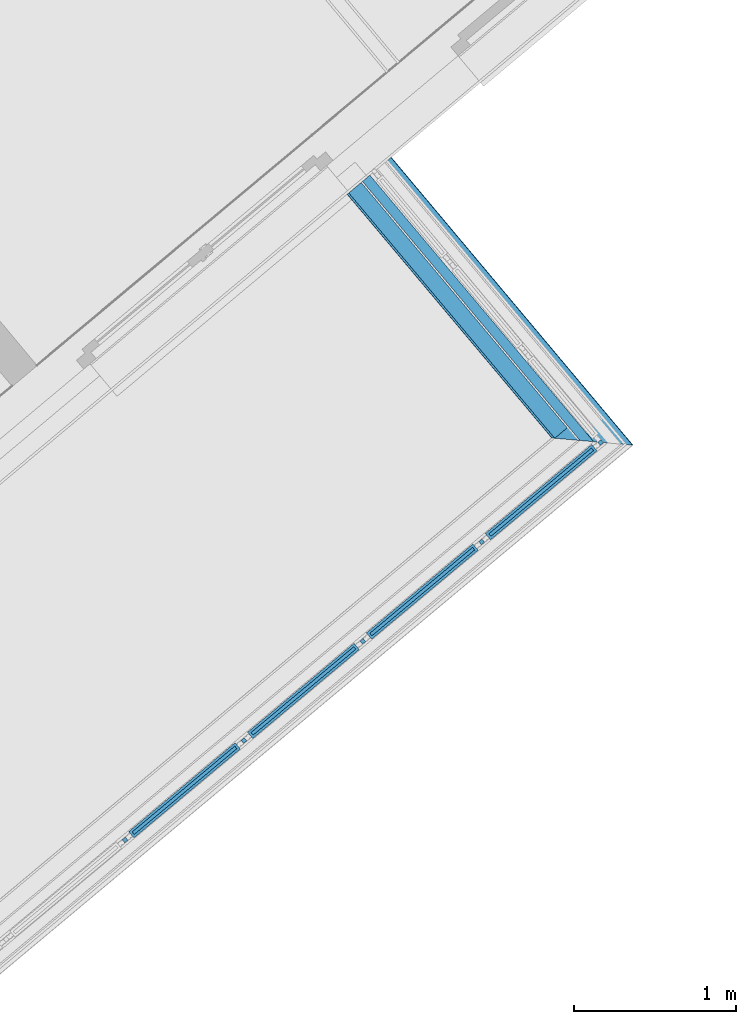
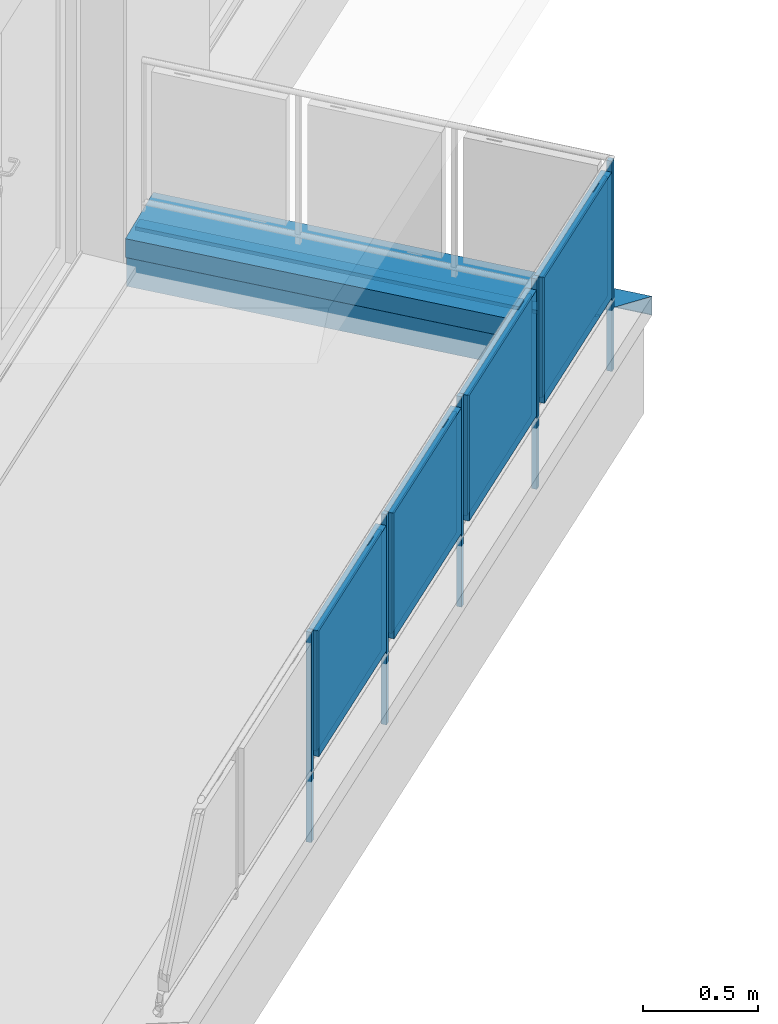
# One storey, part 19 of 50: 17 building element parts, 2 elements without a shape of their own.
"""IFC4 building model written with IfcOpenShell, lengths in metres."""

from ifc_helpers import new_model, entity, si_unit, converted_unit, derived_unit, direction, frame, origin_with_axes, place, context, subcontext, project, spatial, polygons, material, type_object, element, aggregate, save


model = new_model("IFC4")

# Units and contexts
model_context = context("Model", 3, precision=1e-05, world=origin_with_axes(), true_north=direction((0.0, 1.0)))
body_context = subcontext(model_context, "Body", "Model", "MODEL_VIEW")
ifc_project = project(units=[si_unit("LENGTHUNIT", "METRE"), si_unit("AREAUNIT", "SQUARE_METRE"), si_unit("VOLUMEUNIT", "CUBIC_METRE"), converted_unit("PLANEANGLEUNIT", "DEGREE", entity("IfcPlaneAngleMeasure", 0.0174532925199), si_unit("PLANEANGLEUNIT", "RADIAN"), dimensions=[0, 0, 0, 0, 0, 0, 0]), converted_unit("TIMEUNIT", "Year", entity("IfcTimeMeasure", 31556926.0), si_unit("TIMEUNIT", "SECOND"), dimensions=[0, 0, 1, 0, 0, 0, 0]), si_unit("MASSUNIT", "GRAM", prefix="KILO"), si_unit("THERMODYNAMICTEMPERATUREUNIT", "DEGREE_CELSIUS"), si_unit("LUMINOUSINTENSITYUNIT", "LUMEN"), si_unit("ENERGYUNIT", "JOULE", prefix="MEGA"), derived_unit("THERMALCONDUCTANCEUNIT", [(si_unit("POWERUNIT", "WATT"), 1), (si_unit("LENGTHUNIT", "METRE"), -1), (si_unit("THERMODYNAMICTEMPERATUREUNIT", "KELVIN"), -1)]), derived_unit("SPECIFICHEATCAPACITYUNIT", [(si_unit("ENERGYUNIT", "JOULE"), 1), (si_unit("MASSUNIT", "GRAM", prefix="KILO"), -1), (si_unit("THERMODYNAMICTEMPERATUREUNIT", "KELVIN"), -1)]), derived_unit("MASSDENSITYUNIT", [(si_unit("MASSUNIT", "GRAM", prefix="KILO"), 1), (si_unit("VOLUMEUNIT", "CUBIC_METRE"), -1)])], contexts=[model_context])

# Site, building, storey
site_placement = place(None, frame((-0.00153261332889, -0.00661245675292, 0.0), z_axis=(0.0, 0.0, 1.0), x_axis=(1.0, 0.0, 0.0)))
site = spatial("IfcSite", under=ifc_project, at=site_placement, Name="Site", CompositionType="ELEMENT")
building_placement = place(site_placement, origin_with_axes())
building = spatial("IfcBuilding", under=site, at=building_placement, Name="Building", CompositionType="ELEMENT")
storey_placement = place(building_placement, frame((0.0, 0.0, 2.74), z_axis=(0.0, 0.0, 1.0), x_axis=(1.0, 0.0, 0.0)))
storey = spatial("IfcBuildingStorey", under=building, at=storey_placement, Name="OG1", CompositionType="ELEMENT", Elevation=2.74)

# Wall, building element parts
wall_type = type_object("IfcWallType", Name="Bauteil - Attika Balkon 356 x 610", PredefinedType="NOTDEFINED")
wall_placement = place(storey_placement, frame((7.00366353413, 12.2268681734, -0.2), z_axis=(0.0, 0.0, 1.0), x_axis=(-0.643026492, 0.76584393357, 0.0)))
wall = element("IfcWall", 1, at=wall_placement, inside=storey, type_object=wall_type, Name="Wand-003", PredefinedType="NOTDEFINED")
ifc_material_1 = material(Name="Stahl")
building_element_part_1_placement = place(wall_placement, origin_with_axes())
building_element_part_1 = element("IfcBuildingElementPart", 2, at=building_element_part_1_placement, material=ifc_material_1, Name="Stahl", PredefinedType="NOTDEFINED", context=body_context, shape_type="Tessellation", body=[
    polygons([(0.113856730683, 0.113600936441, 0.497561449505), (0.112897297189, 0.112643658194, 0.496604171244), (0.113852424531, 0.11168637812, 0.497561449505), (2.07193710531, 0.113600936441, 0.497561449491), (2.07193710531, 0.112643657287, 0.496604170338), (2.07193710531, 0.103427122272, 0.505820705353), (0.105574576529, 0.103427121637, 0.505820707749), (0.11140838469, 0.109247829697, 0.499999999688), (0.1124955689, 0.110332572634, 0.498915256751), (0.1138493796, 0.110332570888, 0.498915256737), (0.113856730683, 0.113600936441, 0.498915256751), (0.113853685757, 0.112247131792, 0.498915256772), (0.113856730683, 0.113600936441, 0.499999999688), (0.113856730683, 0.113600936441, 0.506731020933), (0.113856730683, 0.113600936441, 0.509099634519), (0.113856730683, 0.113600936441, 0.511410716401), (0.113856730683, 0.113600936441, 0.519273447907), (0.113856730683, 0.113600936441, 0.560000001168), (0.113856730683, 0.113600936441, 0.575576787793), (0.113856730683, 0.113600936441, 0.57982217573), (0.113856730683, 0.113600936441, 0.581921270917), (0.113856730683, 0.113600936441, 0.584015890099), (0.113856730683, 0.113600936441, 0.586106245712), (0.113856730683, 0.113600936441, 0.595846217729), (0.113856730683, 0.113600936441, 0.597151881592), (2.07193710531, 0.113600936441, 0.597151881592), (2.07193710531, -0.242707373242, 0.610055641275), (2.07193710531, -0.242707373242, 0.510056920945), (2.07193710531, -0.241750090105, 0.509099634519), (2.07193710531, -0.232580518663, 0.518269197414), (2.07193710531, -0.233490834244, 0.519273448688), (2.07193710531, -0.241353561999, 0.511410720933), (2.07193710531, -0.24135992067, 0.60865214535), (2.07193710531, -0.23927649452, 0.608570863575), (2.07193710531, 0.112247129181, 0.595846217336), (2.07193710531, 0.112247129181, 0.498915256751), (2.07193710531, 0.104431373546, 0.506731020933), (0.104666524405, 0.104431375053, 0.506731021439), (0.111412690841, 0.111162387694, 0.499999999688), (0.112499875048, 0.112247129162, 0.498915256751), (0.113853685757, 0.112247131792, 0.499999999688), (0.113853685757, 0.112247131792, 0.506731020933), (0.113853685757, 0.112247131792, 0.509099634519), (0.113853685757, 0.112247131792, 0.511410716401), (0.113853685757, 0.112247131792, 0.519273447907), (0.113853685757, 0.112247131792, 0.560000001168), (0.113853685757, 0.112247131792, 0.575576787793), (0.113853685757, 0.112247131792, 0.57982217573), (0.113853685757, 0.112247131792, 0.581921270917), (0.113853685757, 0.112247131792, 0.584015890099), (0.113853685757, 0.112247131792, 0.586106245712), (0.113853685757, 0.112247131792, 0.595846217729), (0.113772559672, 0.076177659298, 0.597151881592), (-0.202162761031, -0.201708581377, 0.608570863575), (-0.204412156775, -0.203952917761, 0.608652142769), (-0.243253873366, -0.242707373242, 0.610055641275), (-0.204499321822, -0.24270737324, 0.608652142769), (-0.241906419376, -0.242707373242, 0.60865214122), (-0.241906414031, -0.242707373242, 0.608570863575), (-0.241905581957, -0.242707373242, 0.595846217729), (-0.241904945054, -0.242707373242, 0.586106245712), (-0.241904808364, -0.242707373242, 0.584015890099), (-0.241904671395, -0.242707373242, 0.581921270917), (-0.241904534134, -0.242707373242, 0.57982217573), (-0.241904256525, -0.242707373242, 0.575576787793), (-0.241903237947, -0.242707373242, 0.560000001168), (-0.241900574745, -0.242707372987, 0.519273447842), (-0.24190006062, -0.242707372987, 0.511410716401), (-0.239985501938, -0.242707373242, 0.511410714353), (-0.241339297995, -0.242707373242, 0.510056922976), (-0.242294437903, -0.241750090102, 0.509099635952), (-0.239978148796, -0.239439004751, 0.511410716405), (-0.233104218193, -0.232580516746, 0.518269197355), (-0.234016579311, -0.233490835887, 0.519273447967), (-0.233108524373, -0.234495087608, 0.518269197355), (-0.239982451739, -0.241353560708, 0.511410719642), (-0.241897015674, -0.241353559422, 0.511410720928), (-0.241897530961, -0.241354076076, 0.519273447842), (-0.241900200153, -0.241356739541, 0.560000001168), (-0.24190122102, -0.241357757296, 0.575576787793), (-0.241901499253, -0.241358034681, 0.57982217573), (-0.241901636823, -0.241358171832, 0.581921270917), (-0.241901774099, -0.24135830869, 0.584015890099), (-0.241901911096, -0.24135844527, 0.586106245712), (-0.241902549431, -0.24135908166, 0.595846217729), (-0.241903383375, -0.241359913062, 0.608570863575), (-0.241903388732, -0.241359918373, 0.608652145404), (-0.204496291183, -0.24135992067, 0.608652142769), (-0.202247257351, -0.23927649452, 0.608570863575)], [[[1, 2, 3]], [[1, 4, 5, 2]], [[5, 6, 7, 8, 9, 10, 3, 2]], [[11, 1, 3, 10, 12]], [[1, 11, 13, 14, 15, 16, 17, 18, 19, 20, 21, 22, 23, 24, 25, 26, 4]], [[5, 4, 26, 27, 28, 29, 30, 31, 32, 33, 34, 35, 36, 37, 6]], [[6, 37, 38, 7]], [[7, 38, 39, 8]], [[39, 40, 9, 8]], [[40, 12, 10, 9]], [[13, 11, 12, 41]], [[13, 41, 42, 14]], [[15, 14, 42, 43]], [[16, 15, 43, 44]], [[17, 16, 44, 45]], [[18, 17, 45, 46]], [[19, 18, 46, 47]], [[20, 19, 47, 48]], [[21, 20, 48, 49]], [[22, 21, 49, 50]], [[23, 22, 50, 51]], [[24, 23, 51, 52]], [[25, 24, 52, 53]], [[26, 25, 54, 55, 56, 27]], [[28, 27, 56, 57, 58, 59, 60, 61, 62, 63, 64, 65, 66, 67, 68, 69, 70]], [[29, 28, 70, 71]], [[30, 29, 71, 72, 73]], [[31, 30, 73, 74]], [[32, 31, 74, 75, 76]], [[33, 32, 76, 77, 78, 79, 80, 81, 82, 83, 84, 85, 86, 87, 88]], [[34, 33, 88, 89]], [[35, 34, 89, 53, 52]], [[36, 35, 52, 51, 50, 49, 48, 47, 46, 45, 44, 43, 42, 41, 12]], [[37, 36, 12, 40, 39, 38]], [[54, 25, 53, 89]], [[55, 54, 89, 88]], [[55, 88, 57, 56]], [[57, 88, 87, 58]], [[87, 86, 59, 58]], [[85, 60, 59, 86]], [[84, 61, 60, 85]], [[84, 83, 62, 61]], [[83, 82, 63, 62]], [[82, 81, 64, 63]], [[81, 80, 65, 64]], [[80, 79, 66, 65]], [[79, 78, 67, 66]], [[78, 77, 68, 67]], [[77, 76, 69, 68]], [[76, 72, 71, 70, 69]], [[76, 75, 73, 72]], [[74, 73, 75]]], closed=True),
])
ifc_material_2 = material(Name="Holzwerkstoff")
building_element_part_2_placement = place(wall_placement, origin_with_axes())
building_element_part_2 = element("IfcBuildingElementPart", 3, at=building_element_part_2_placement, material=ifc_material_2, Name="Holzwerkstoff", PredefinedType="NOTDEFINED", context=body_context, shape_type="Tessellation", body=[
    polygons([(2.07193710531, 0.112247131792, 0.5958462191), (2.07193710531, 0.111539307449, 0.575576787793), (0.111790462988, 0.111539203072, 0.575576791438), (0.111939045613, 0.111687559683, 0.579822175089), (0.112012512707, 0.111760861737, 0.581921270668), (0.112085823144, 0.11183400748, 0.584015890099), (0.112158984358, 0.111907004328, 0.586106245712), (0.112499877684, 0.112247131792, 0.5958462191), (2.07193710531, -0.0100326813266, 0.579822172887), (2.07193710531, -0.23927649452, 0.608570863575), (2.07193710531, -0.23999998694, 0.587852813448), (2.07193710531, -0.189984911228, 0.586106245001), (2.07193710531, -0.13012497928, 0.584015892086), (2.07193710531, -0.0701429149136, 0.581921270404), (0.111665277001, -0.0100326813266, 0.579822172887), (0.111603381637, -0.0701429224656, 0.581921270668), (0.111541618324, -0.130124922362, 0.584015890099), (0.111479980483, -0.189984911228, 0.586106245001), (0.111428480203, -0.23999998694, 0.587852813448), (0.11170824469, -0.239720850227, 0.5958462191), (-0.239815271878, -0.239276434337, 0.608570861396)], [[[1, 2, 3, 4, 5, 6, 7, 8]], [[9, 2, 1, 10, 11, 12, 13, 14]], [[2, 9, 15, 3]], [[4, 3, 15]], [[5, 4, 15, 16]], [[6, 5, 16, 17]], [[7, 6, 17, 18]], [[8, 7, 18, 19, 20]], [[1, 8, 21, 10]], [[11, 10, 21, 20, 19]], [[12, 11, 19, 18]], [[13, 12, 18, 17]], [[14, 13, 17, 16]], [[9, 14, 16, 15]], [[21, 8, 20]]], closed=True),
])
ifc_material_3 = material(Name="EPS 1")
building_element_part_3_placement = place(wall_placement, origin_with_axes())
building_element_part_3 = element("IfcBuildingElementPart", 4, at=building_element_part_3_placement, material=ifc_material_3, Name="EPS 1", PredefinedType="NOTDEFINED", context=body_context, shape_type="Tessellation", body=[
    polygons([(0.100225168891, 0.0999999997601, 0.560000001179), (0.100000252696, -2.39907649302e-10, 0.560000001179), (2.07193710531, -2.39907649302e-10, 0.560000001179), (2.07193710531, 0.0999999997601, 0.560000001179), (0.100000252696, -2.39905872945e-10, 0.519273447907), (0.100225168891, 0.0999999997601, 0.519273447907), (0.100000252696, -2.39905872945e-10, 0.511410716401), (0.100000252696, -2.39905872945e-10, 0.509099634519), (0.100000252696, -2.39905872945e-10, 0.506731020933), (0.100000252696, -2.39905872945e-10, 0.499999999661), (0.100000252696, -2.39905872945e-10, 0.498915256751), (0.100000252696, -2.39905872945e-10, 0.496604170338), (0.100000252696, -2.39907649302e-10, 0.334999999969), (2.07193710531, -2.39907649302e-10, 0.334999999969), (2.07193710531, 0.0999999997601, 0.334999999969), (0.100225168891, 0.0999999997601, 0.334999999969), (0.100225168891, 0.0999999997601, 0.496604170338), (0.100225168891, 0.0999999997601, 0.498915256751), (0.100225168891, 0.0999999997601, 0.499999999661), (0.100225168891, 0.0999999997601, 0.506731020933), (0.100225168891, 0.0999999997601, 0.509099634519), (0.100225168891, 0.0999999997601, 0.511410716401)], [[[1, 2, 3, 4]], [[5, 2, 1, 6]], [[2, 5, 7, 8, 9, 10, 11, 12, 13, 14, 3]], [[14, 15, 4, 3]], [[6, 1, 4, 15, 16, 17, 18, 19, 20, 21, 22]], [[5, 6, 22, 7]], [[7, 22, 21, 8]], [[8, 21, 20, 9]], [[9, 20, 19, 10]], [[10, 19, 18, 11]], [[11, 18, 17, 12]], [[12, 17, 16, 13]], [[13, 16, 15, 14]]], closed=True),
])
ifc_material_4 = material(Name="Vollholz")
building_element_part_4_placement = place(wall_placement, origin_with_axes())
building_element_part_4 = element("IfcBuildingElementPart", 5, at=building_element_part_4_placement, material=ifc_material_4, Name="Vollholz", PredefinedType="NOTDEFINED", context=body_context, shape_type="Tessellation", body=[
    polygons([(-0.0100552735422, -0.0100326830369, 0.579822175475), (-0.0703008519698, -0.0701429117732, 0.581921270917), (2.07193710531, -0.0701429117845, 0.581921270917), (2.07193710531, -0.0100326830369, 0.579822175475), (-0.0101904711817, -0.0701429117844, 0.579822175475), (-0.0102140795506, -0.0701429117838, 0.575576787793), (-0.0103007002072, -0.0701429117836, 0.560000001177), (2.07193710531, -0.0701429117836, 0.560000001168), (2.07193710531, -0.0101429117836, 0.560000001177), (-0.0100789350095, -0.0100562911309, 0.575576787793), (-0.01016575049, -0.0101429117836, 0.560000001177)], [[[1, 2, 3, 4]], [[5, 2, 1]], [[2, 5, 6, 7, 8, 3]], [[9, 4, 3, 8]], [[10, 1, 4, 9, 11]], [[5, 1, 10, 6]], [[6, 10, 11, 7]], [[7, 11, 9, 8]]], closed=True),
])
aggregate(wall, [building_element_part_1, building_element_part_2, building_element_part_3, building_element_part_4])

# Railing, building element parts
railing_type = type_object("IfcRailingType", Name="Geländerart", PredefinedType="NOTDEFINED")
railing_placement = place(storey_placement, frame((-0.869246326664, 8.34153645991, 0.38), z_axis=(0.0, 0.0, 1.0), x_axis=(1.0, 0.0, 0.0)))
railing = element("IfcRailing", 6, at=railing_placement, inside=storey, type_object=railing_type, Name="Geländer - 001", PredefinedType="NOTDEFINED")
ifc_material_5 = material(Name="Aluminium")
building_element_part_5_placement = place(railing_placement, origin_with_axes())
building_element_part_5 = element("IfcBuildingElementPart", 7, at=building_element_part_5_placement, material=ifc_material_5, Name="Aluminium", PredefinedType="NOTDEFINED", context=body_context, shape_type="Tessellation", body=[
    polygons([(8.03183579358, 3.86996727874, -0.3), (8.01580323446, 3.88914948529, -0.3), (8.01580323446, 3.88914948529, 0.82), (8.03183579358, 3.86996727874, 0.82), (8.01265358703, 3.85393471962, -0.3), (7.99662102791, 3.87311692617, -0.3), (7.99662102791, 3.87311692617, 0.82), (8.01265358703, 3.85393471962, 0.82)], [[[1, 2, 3, 4]], [[1, 5, 6, 2]], [[2, 6, 7, 3]], [[4, 3, 7, 8]], [[5, 1, 4, 8]], [[6, 5, 8, 7]]], closed=True),
])
building_element_part_6_placement = place(railing_placement, origin_with_axes())
building_element_part_6 = element("IfcBuildingElementPart", 8, at=building_element_part_6_placement, material=ifc_material_5, Name="Aluminium", PredefinedType="NOTDEFINED", context=body_context, shape_type="Tessellation", body=[
    polygons([(5.10487304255, 1.42360099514, -0.3), (5.08884048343, 1.44278320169, -0.3), (5.08884048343, 1.44278320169, 0.82), (5.10487304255, 1.42360099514, 0.82), (5.085690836, 1.40756843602, -0.3), (5.06965827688, 1.42675064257, -0.3), (5.06965827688, 1.42675064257, 0.82), (5.085690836, 1.40756843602, 0.82)], [[[1, 2, 3, 4]], [[1, 5, 6, 2]], [[2, 6, 7, 3]], [[4, 3, 7, 8]], [[5, 1, 4, 8]], [[6, 5, 8, 7]]], closed=True),
])
ifc_material_6 = material(Name="Profilit")
building_element_part_7_placement = place(railing_placement, origin_with_axes())
building_element_part_7 = element("IfcBuildingElementPart", 9, at=building_element_part_7_placement, material=ifc_material_6, Name="Profilit", PredefinedType="NOTDEFINED", context=body_context, shape_type="Tessellation", body=[
    polygons([(5.7627195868, 2.00275561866, 0.135), (5.1307263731, 1.47453335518, 0.135), (5.1307263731, 1.47453335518, 0.775), (5.7627195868, 2.00275561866, 0.775), (5.14355242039, 1.45918758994, 0.135), (5.7755456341, 1.98740985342, 0.135), (5.14355242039, 1.45918758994, 0.775), (5.7755456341, 1.98740985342, 0.775)], [[[1, 2, 3, 4]], [[5, 2, 1, 6]], [[7, 3, 2, 5]], [[4, 3, 7, 8]], [[1, 4, 8, 6]], [[7, 5, 6, 8]]], closed=True),
])
building_element_part_8_placement = place(railing_placement, origin_with_axes())
building_element_part_8 = element("IfcBuildingElementPart", 10, at=building_element_part_8_placement, material=ifc_material_5, Name="Aluminium", PredefinedType="NOTDEFINED", context=body_context, shape_type="Tessellation", body=[
    polygons([(5.2007556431, 1.52328939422, 0.12), (5.25446582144, 1.56818055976, 0.12), (5.25446582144, 1.56818055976, 0.095), (5.2007556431, 1.52328939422, 0.095), (5.20396215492, 1.51945295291, 0.12), (5.25767233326, 1.56434411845, 0.12), (5.25767233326, 1.56434411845, 0.095), (5.20396215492, 1.51945295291, 0.095)], [[[1, 2, 3, 4]], [[5, 6, 2, 1]], [[2, 6, 7, 3]], [[4, 3, 7, 8]], [[1, 4, 8, 5]], [[8, 7, 6, 5]]], closed=True),
    polygons([(5.70230985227, 1.94249025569, 0.79), (5.64859967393, 1.89759909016, 0.79), (5.64859967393, 1.89759909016, 0.795), (5.70230985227, 1.94249025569, 0.795), (5.70551636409, 1.93865381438, 0.79), (5.65180618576, 1.89376264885, 0.79), (5.65180618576, 1.89376264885, 0.795), (5.70551636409, 1.93865381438, 0.795)], [[[1, 2, 3, 4]], [[5, 6, 2, 1]], [[2, 6, 7, 3]], [[4, 3, 7, 8]], [[1, 4, 8, 5]], [[8, 7, 6, 5]]], closed=True),
    polygons([(5.14166263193, 1.43805873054, 0.12), (5.1095975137, 1.47642314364, 0.12), (5.76460937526, 2.02388447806, 0.12), (5.7966744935, 1.98552006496, 0.12), (5.15700839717, 1.45088477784, 0.14), (5.1473888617, 1.46239410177, 0.14), (5.14355242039, 1.45918758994, 0.135), (5.1307263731, 1.47453335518, 0.135), (5.13456281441, 1.47773986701, 0.14), (5.12494327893, 1.48924919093, 0.14), (5.74926361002, 2.01105843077, 0.14), (5.74926361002, 2.01105843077, 0.77), (5.12494327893, 1.48924919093, 0.77), (5.12494327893, 1.48924919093, 0.14), (5.1095975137, 1.47642314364, 0.12), (5.1095975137, 1.47642314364, 0.79), (5.76460937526, 2.02388447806, 0.79), (5.7966744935, 1.98552006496, 0.79), (5.14166263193, 1.43805873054, 0.79), (5.14166263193, 1.43805873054, 0.12), (5.15700839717, 1.45088477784, 0.14), (5.15700839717, 1.45088477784, 0.77), (5.78132872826, 1.97269401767, 0.77), (5.78132872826, 1.97269401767, 0.14), (5.77170919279, 1.9842033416, 0.14), (5.77170919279, 1.9842033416, 0.77), (5.1473888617, 1.46239410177, 0.77), (5.1473888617, 1.46239410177, 0.14), (5.14355242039, 1.45918758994, 0.135), (5.14355242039, 1.45918758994, 0.775), (5.7755456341, 1.98740985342, 0.775), (5.7755456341, 1.98740985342, 0.135), (5.7627195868, 2.00275561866, 0.135), (5.7627195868, 2.00275561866, 0.775), (5.1307263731, 1.47453335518, 0.775), (5.1307263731, 1.47453335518, 0.135), (5.13456281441, 1.47773986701, 0.14), (5.13456281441, 1.47773986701, 0.77), (5.75888314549, 1.99954910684, 0.77), (5.75888314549, 1.99954910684, 0.14)], [[[1, 2, 3, 4]], [[1, 5, 6, 7, 8, 9, 10, 2]], [[2, 10, 11, 12, 13, 14, 15, 16, 17, 3]], [[4, 3, 17, 18]], [[5, 1, 4, 18, 19, 20, 21, 22, 23, 24]], [[6, 5, 24, 25]], [[7, 6, 25, 26, 27, 28, 29, 30, 31, 32]], [[8, 7, 32, 33]], [[9, 8, 33, 34, 35, 36, 37, 38, 39, 40]], [[10, 9, 40, 11]], [[11, 40, 39, 12]], [[12, 39, 38, 13]], [[13, 38, 37, 14]], [[20, 15, 14, 37, 36, 29, 28, 21]], [[19, 16, 15, 20]], [[18, 17, 16, 19]], [[27, 22, 21, 28]], [[26, 23, 22, 27]], [[25, 24, 23, 26]], [[35, 30, 29, 36]], [[34, 31, 30, 35]], [[33, 32, 31, 34]]], closed=True),
])
building_element_part_9_placement = place(railing_placement, origin_with_axes())
building_element_part_9 = element("IfcBuildingElementPart", 11, at=building_element_part_9_placement, material=ifc_material_5, Name="Aluminium", PredefinedType="NOTDEFINED", context=body_context, shape_type="Tessellation", body=[
    polygons([(5.83661373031, 2.03519256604, -0.3), (5.82058117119, 2.05437477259, -0.3), (5.82058117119, 2.05437477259, 0.82), (5.83661373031, 2.03519256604, 0.82), (5.81743152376, 2.01916000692, -0.3), (5.80139896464, 2.03834221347, -0.3), (5.80139896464, 2.03834221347, 0.82), (5.81743152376, 2.01916000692, 0.82)], [[[1, 2, 3, 4]], [[1, 5, 6, 2]], [[2, 6, 7, 3]], [[4, 3, 7, 8]], [[5, 1, 4, 8]], [[6, 5, 8, 7]]], closed=True),
])
building_element_part_10_placement = place(railing_placement, origin_with_axes())
building_element_part_10 = element("IfcBuildingElementPart", 12, at=building_element_part_10_placement, material=ifc_material_6, Name="Profilit", PredefinedType="NOTDEFINED", context=body_context, shape_type="Tessellation", body=[
    polygons([(6.49446027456, 2.61434718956, 0.135), (5.86246706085, 2.08612492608, 0.135), (5.86246706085, 2.08612492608, 0.775), (6.49446027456, 2.61434718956, 0.775), (5.87529310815, 2.07077916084, 0.135), (6.50728632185, 2.59900142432, 0.135), (5.87529310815, 2.07077916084, 0.775), (6.50728632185, 2.59900142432, 0.775)], [[[1, 2, 3, 4]], [[5, 2, 1, 6]], [[7, 3, 2, 5]], [[4, 3, 7, 8]], [[1, 4, 8, 6]], [[7, 5, 6, 8]]], closed=True),
])
building_element_part_11_placement = place(railing_placement, origin_with_axes())
building_element_part_11 = element("IfcBuildingElementPart", 13, at=building_element_part_11_placement, material=ifc_material_5, Name="Aluminium", PredefinedType="NOTDEFINED", context=body_context, shape_type="Tessellation", body=[
    polygons([(5.93249633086, 2.13488096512, 0.12), (5.98620650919, 2.17977213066, 0.12), (5.98620650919, 2.17977213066, 0.095), (5.93249633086, 2.13488096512, 0.095), (5.93570284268, 2.13104452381, 0.12), (5.98941302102, 2.17593568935, 0.12), (5.98941302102, 2.17593568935, 0.095), (5.93570284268, 2.13104452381, 0.095)], [[[1, 2, 3, 4]], [[5, 6, 2, 1]], [[2, 6, 7, 3]], [[4, 3, 7, 8]], [[1, 4, 8, 5]], [[8, 7, 6, 5]]], closed=True),
    polygons([(6.43405054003, 2.55408182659, 0.79), (6.38034036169, 2.50919066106, 0.79), (6.38034036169, 2.50919066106, 0.795), (6.43405054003, 2.55408182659, 0.795), (6.43725705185, 2.55024538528, 0.79), (6.38354687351, 2.50535421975, 0.79), (6.38354687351, 2.50535421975, 0.795), (6.43725705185, 2.55024538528, 0.795)], [[[1, 2, 3, 4]], [[5, 6, 2, 1]], [[2, 6, 7, 3]], [[4, 3, 7, 8]], [[1, 4, 8, 5]], [[8, 7, 6, 5]]], closed=True),
    polygons([(5.87340331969, 2.04965030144, 0.12), (5.84133820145, 2.08801471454, 0.12), (6.49635006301, 2.63547604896, 0.12), (6.52841518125, 2.59711163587, 0.12), (5.88874908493, 2.06247634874, 0.14), (5.87912954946, 2.07398567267, 0.14), (5.87529310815, 2.07077916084, 0.135), (5.86246706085, 2.08612492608, 0.135), (5.86630350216, 2.08933143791, 0.14), (5.85668396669, 2.10084076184, 0.14), (6.48100429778, 2.62265000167, 0.14), (6.48100429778, 2.62265000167, 0.77), (5.85668396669, 2.10084076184, 0.77), (5.85668396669, 2.10084076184, 0.14), (5.84133820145, 2.08801471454, 0.12), (5.84133820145, 2.08801471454, 0.79), (6.49635006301, 2.63547604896, 0.79), (6.52841518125, 2.59711163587, 0.79), (5.87340331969, 2.04965030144, 0.79), (5.87340331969, 2.04965030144, 0.12), (5.88874908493, 2.06247634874, 0.14), (5.88874908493, 2.06247634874, 0.77), (6.51306941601, 2.58428558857, 0.77), (6.51306941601, 2.58428558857, 0.14), (6.50344988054, 2.5957949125, 0.14), (6.50344988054, 2.5957949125, 0.77), (5.87912954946, 2.07398567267, 0.77), (5.87912954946, 2.07398567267, 0.14), (5.87529310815, 2.07077916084, 0.135), (5.87529310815, 2.07077916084, 0.775), (6.50728632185, 2.59900142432, 0.775), (6.50728632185, 2.59900142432, 0.135), (6.49446027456, 2.61434718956, 0.135), (6.49446027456, 2.61434718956, 0.775), (5.86246706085, 2.08612492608, 0.775), (5.86246706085, 2.08612492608, 0.135), (5.86630350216, 2.08933143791, 0.14), (5.86630350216, 2.08933143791, 0.77), (6.49062383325, 2.61114067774, 0.77), (6.49062383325, 2.61114067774, 0.14)], [[[1, 2, 3, 4]], [[1, 5, 6, 7, 8, 9, 10, 2]], [[2, 10, 11, 12, 13, 14, 15, 16, 17, 3]], [[4, 3, 17, 18]], [[5, 1, 4, 18, 19, 20, 21, 22, 23, 24]], [[6, 5, 24, 25]], [[7, 6, 25, 26, 27, 28, 29, 30, 31, 32]], [[8, 7, 32, 33]], [[9, 8, 33, 34, 35, 36, 37, 38, 39, 40]], [[10, 9, 40, 11]], [[11, 40, 39, 12]], [[12, 39, 38, 13]], [[13, 38, 37, 14]], [[20, 15, 14, 37, 36, 29, 28, 21]], [[19, 16, 15, 20]], [[18, 17, 16, 19]], [[27, 22, 21, 28]], [[26, 23, 22, 27]], [[25, 24, 23, 26]], [[35, 30, 29, 36]], [[34, 31, 30, 35]], [[33, 32, 31, 34]]], closed=True),
])
building_element_part_12_placement = place(railing_placement, origin_with_axes())
building_element_part_12 = element("IfcBuildingElementPart", 14, at=building_element_part_12_placement, material=ifc_material_5, Name="Aluminium", PredefinedType="NOTDEFINED", context=body_context, shape_type="Tessellation", body=[
    polygons([(6.56835441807, 2.64678413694, -0.3), (6.55232185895, 2.66596634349, -0.3), (6.55232185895, 2.66596634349, 0.82), (6.56835441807, 2.64678413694, 0.82), (6.54917221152, 2.63075157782, -0.3), (6.5331396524, 2.64993378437, -0.3), (6.5331396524, 2.64993378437, 0.82), (6.54917221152, 2.63075157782, 0.82)], [[[1, 2, 3, 4]], [[1, 5, 6, 2]], [[2, 6, 7, 3]], [[4, 3, 7, 8]], [[5, 1, 4, 8]], [[6, 5, 8, 7]]], closed=True),
])
building_element_part_13_placement = place(railing_placement, origin_with_axes())
building_element_part_13 = element("IfcBuildingElementPart", 15, at=building_element_part_13_placement, material=ifc_material_6, Name="Profilit", PredefinedType="NOTDEFINED", context=body_context, shape_type="Tessellation", body=[
    polygons([(7.22620096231, 3.22593876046, 0.135), (6.59420774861, 2.69771649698, 0.135), (6.59420774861, 2.69771649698, 0.775), (7.22620096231, 3.22593876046, 0.775), (6.60703379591, 2.68237073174, 0.135), (7.23902700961, 3.21059299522, 0.135), (6.60703379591, 2.68237073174, 0.775), (7.23902700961, 3.21059299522, 0.775)], [[[1, 2, 3, 4]], [[5, 2, 1, 6]], [[7, 3, 2, 5]], [[4, 3, 7, 8]], [[1, 4, 8, 6]], [[7, 5, 6, 8]]], closed=True),
])
building_element_part_14_placement = place(railing_placement, origin_with_axes())
building_element_part_14 = element("IfcBuildingElementPart", 16, at=building_element_part_14_placement, material=ifc_material_5, Name="Aluminium", PredefinedType="NOTDEFINED", context=body_context, shape_type="Tessellation", body=[
    polygons([(6.66423701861, 2.74647253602, 0.12), (6.71794719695, 2.79136370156, 0.12), (6.71794719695, 2.79136370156, 0.095), (6.66423701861, 2.74647253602, 0.095), (6.66744353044, 2.74263609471, 0.12), (6.72115370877, 2.78752726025, 0.12), (6.72115370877, 2.78752726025, 0.095), (6.66744353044, 2.74263609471, 0.095)], [[[1, 2, 3, 4]], [[5, 6, 2, 1]], [[2, 6, 7, 3]], [[4, 3, 7, 8]], [[1, 4, 8, 5]], [[8, 7, 6, 5]]], closed=True),
    polygons([(7.16579122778, 3.16567339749, 0.79), (7.11208104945, 3.12078223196, 0.79), (7.11208104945, 3.12078223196, 0.795), (7.16579122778, 3.16567339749, 0.795), (7.16899773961, 3.16183695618, 0.79), (7.11528756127, 3.11694579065, 0.79), (7.11528756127, 3.11694579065, 0.795), (7.16899773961, 3.16183695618, 0.795)], [[[1, 2, 3, 4]], [[5, 6, 2, 1]], [[2, 6, 7, 3]], [[4, 3, 7, 8]], [[1, 4, 8, 5]], [[8, 7, 6, 5]]], closed=True),
    polygons([(6.60514400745, 2.66124187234, 0.12), (6.57307888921, 2.69960628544, 0.12), (7.22809075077, 3.24706761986, 0.12), (7.26015586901, 3.20870320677, 0.12), (6.62048977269, 2.67406791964, 0.14), (6.61087023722, 2.68557724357, 0.14), (6.60703379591, 2.68237073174, 0.135), (6.59420774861, 2.69771649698, 0.135), (6.59804418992, 2.70092300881, 0.14), (6.58842465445, 2.71243233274, 0.14), (7.21274498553, 3.23424157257, 0.14), (7.21274498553, 3.23424157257, 0.77), (6.58842465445, 2.71243233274, 0.77), (6.58842465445, 2.71243233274, 0.14), (6.57307888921, 2.69960628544, 0.12), (6.57307888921, 2.69960628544, 0.79), (7.22809075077, 3.24706761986, 0.79), (7.26015586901, 3.20870320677, 0.79), (6.60514400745, 2.66124187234, 0.79), (6.60514400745, 2.66124187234, 0.12), (6.62048977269, 2.67406791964, 0.14), (6.62048977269, 2.67406791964, 0.77), (7.24481010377, 3.19587715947, 0.77), (7.24481010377, 3.19587715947, 0.14), (7.2351905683, 3.2073864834, 0.14), (7.2351905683, 3.2073864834, 0.77), (6.61087023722, 2.68557724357, 0.77), (6.61087023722, 2.68557724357, 0.14), (6.60703379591, 2.68237073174, 0.135), (6.60703379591, 2.68237073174, 0.775), (7.23902700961, 3.21059299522, 0.775), (7.23902700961, 3.21059299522, 0.135), (7.22620096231, 3.22593876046, 0.135), (7.22620096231, 3.22593876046, 0.775), (6.59420774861, 2.69771649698, 0.775), (6.59420774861, 2.69771649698, 0.135), (6.59804418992, 2.70092300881, 0.14), (6.59804418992, 2.70092300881, 0.77), (7.222364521, 3.22273224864, 0.77), (7.222364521, 3.22273224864, 0.14)], [[[1, 2, 3, 4]], [[1, 5, 6, 7, 8, 9, 10, 2]], [[2, 10, 11, 12, 13, 14, 15, 16, 17, 3]], [[4, 3, 17, 18]], [[5, 1, 4, 18, 19, 20, 21, 22, 23, 24]], [[6, 5, 24, 25]], [[7, 6, 25, 26, 27, 28, 29, 30, 31, 32]], [[8, 7, 32, 33]], [[9, 8, 33, 34, 35, 36, 37, 38, 39, 40]], [[10, 9, 40, 11]], [[11, 40, 39, 12]], [[12, 39, 38, 13]], [[13, 38, 37, 14]], [[20, 15, 14, 37, 36, 29, 28, 21]], [[19, 16, 15, 20]], [[18, 17, 16, 19]], [[27, 22, 21, 28]], [[26, 23, 22, 27]], [[25, 24, 23, 26]], [[35, 30, 29, 36]], [[34, 31, 30, 35]], [[33, 32, 31, 34]]], closed=True),
])
building_element_part_15_placement = place(railing_placement, origin_with_axes())
building_element_part_15 = element("IfcBuildingElementPart", 17, at=building_element_part_15_placement, material=ifc_material_5, Name="Aluminium", PredefinedType="NOTDEFINED", context=body_context, shape_type="Tessellation", body=[
    polygons([(7.30009510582, 3.25837570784, -0.3), (7.2840625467, 3.27755791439, -0.3), (7.2840625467, 3.27755791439, 0.82), (7.30009510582, 3.25837570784, 0.82), (7.28091289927, 3.24234314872, -0.3), (7.26488034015, 3.26152535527, -0.3), (7.26488034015, 3.26152535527, 0.82), (7.28091289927, 3.24234314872, 0.82)], [[[1, 2, 3, 4]], [[1, 5, 6, 2]], [[2, 6, 7, 3]], [[4, 3, 7, 8]], [[5, 1, 4, 8]], [[6, 5, 8, 7]]], closed=True),
])
building_element_part_16_placement = place(railing_placement, origin_with_axes())
building_element_part_16 = element("IfcBuildingElementPart", 18, at=building_element_part_16_placement, material=ifc_material_6, Name="Profilit", PredefinedType="NOTDEFINED", context=body_context, shape_type="Tessellation", body=[
    polygons([(7.95794165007, 3.83753033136, 0.135), (7.32594843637, 3.30930806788, 0.135), (7.32594843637, 3.30930806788, 0.775), (7.95794165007, 3.83753033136, 0.775), (7.33877448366, 3.29396230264, 0.135), (7.97076769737, 3.82218456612, 0.135), (7.33877448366, 3.29396230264, 0.775), (7.97076769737, 3.82218456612, 0.775)], [[[1, 2, 3, 4]], [[5, 2, 1, 6]], [[7, 3, 2, 5]], [[4, 3, 7, 8]], [[1, 4, 8, 6]], [[7, 5, 6, 8]]], closed=True),
])
building_element_part_17_placement = place(railing_placement, origin_with_axes())
building_element_part_17 = element("IfcBuildingElementPart", 19, at=building_element_part_17_placement, material=ifc_material_5, Name="Aluminium", PredefinedType="NOTDEFINED", context=body_context, shape_type="Tessellation", body=[
    polygons([(7.39597770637, 3.35806410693, 0.12), (7.44968788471, 3.40295527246, 0.12), (7.44968788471, 3.40295527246, 0.095), (7.39597770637, 3.35806410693, 0.095), (7.39918421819, 3.35422766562, 0.12), (7.45289439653, 3.39911883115, 0.12), (7.45289439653, 3.39911883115, 0.095), (7.39918421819, 3.35422766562, 0.095)], [[[1, 2, 3, 4]], [[5, 6, 2, 1]], [[2, 6, 7, 3]], [[4, 3, 7, 8]], [[1, 4, 8, 5]], [[8, 7, 6, 5]]], closed=True),
    polygons([(7.89753191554, 3.77726496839, 0.79), (7.8438217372, 3.73237380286, 0.79), (7.8438217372, 3.73237380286, 0.795), (7.89753191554, 3.77726496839, 0.795), (7.90073842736, 3.77342852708, 0.79), (7.84702824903, 3.72853736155, 0.79), (7.84702824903, 3.72853736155, 0.795), (7.90073842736, 3.77342852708, 0.795)], [[[1, 2, 3, 4]], [[5, 6, 2, 1]], [[2, 6, 7, 3]], [[4, 3, 7, 8]], [[1, 4, 8, 5]], [[8, 7, 6, 5]]], closed=True),
    polygons([(7.33688469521, 3.27283344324, 0.12), (7.30481957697, 3.31119785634, 0.12), (7.95983143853, 3.85865919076, 0.12), (7.99189655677, 3.82029477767, 0.12), (7.35223046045, 3.28565949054, 0.14), (7.34261092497, 3.29716881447, 0.14), (7.33877448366, 3.29396230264, 0.135), (7.32594843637, 3.30930806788, 0.135), (7.32978487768, 3.31251457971, 0.14), (7.32016534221, 3.32402390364, 0.14), (7.94448567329, 3.84583314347, 0.14), (7.94448567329, 3.84583314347, 0.77), (7.32016534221, 3.32402390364, 0.77), (7.32016534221, 3.32402390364, 0.14), (7.30481957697, 3.31119785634, 0.12), (7.30481957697, 3.31119785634, 0.79), (7.95983143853, 3.85865919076, 0.79), (7.99189655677, 3.82029477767, 0.79), (7.33688469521, 3.27283344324, 0.79), (7.33688469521, 3.27283344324, 0.12), (7.35223046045, 3.28565949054, 0.14), (7.35223046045, 3.28565949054, 0.77), (7.97655079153, 3.80746873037, 0.77), (7.97655079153, 3.80746873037, 0.14), (7.96693125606, 3.8189780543, 0.14), (7.96693125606, 3.8189780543, 0.77), (7.34261092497, 3.29716881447, 0.77), (7.34261092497, 3.29716881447, 0.14), (7.33877448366, 3.29396230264, 0.135), (7.33877448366, 3.29396230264, 0.775), (7.97076769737, 3.82218456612, 0.775), (7.97076769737, 3.82218456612, 0.135), (7.95794165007, 3.83753033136, 0.135), (7.95794165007, 3.83753033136, 0.775), (7.32594843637, 3.30930806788, 0.775), (7.32594843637, 3.30930806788, 0.135), (7.32978487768, 3.31251457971, 0.14), (7.32978487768, 3.31251457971, 0.77), (7.95410520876, 3.83432381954, 0.77), (7.95410520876, 3.83432381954, 0.14)], [[[1, 2, 3, 4]], [[1, 5, 6, 7, 8, 9, 10, 2]], [[2, 10, 11, 12, 13, 14, 15, 16, 17, 3]], [[4, 3, 17, 18]], [[5, 1, 4, 18, 19, 20, 21, 22, 23, 24]], [[6, 5, 24, 25]], [[7, 6, 25, 26, 27, 28, 29, 30, 31, 32]], [[8, 7, 32, 33]], [[9, 8, 33, 34, 35, 36, 37, 38, 39, 40]], [[10, 9, 40, 11]], [[11, 40, 39, 12]], [[12, 39, 38, 13]], [[13, 38, 37, 14]], [[20, 15, 14, 37, 36, 29, 28, 21]], [[19, 16, 15, 20]], [[18, 17, 16, 19]], [[27, 22, 21, 28]], [[26, 23, 22, 27]], [[25, 24, 23, 26]], [[35, 30, 29, 36]], [[34, 31, 30, 35]], [[33, 32, 31, 34]]], closed=True),
])
aggregate(railing, [building_element_part_5, building_element_part_6, building_element_part_7, building_element_part_8, building_element_part_9, building_element_part_10, building_element_part_11, building_element_part_12, building_element_part_13, building_element_part_14, building_element_part_15, building_element_part_16, building_element_part_17])

save(model, "model.ifc")
